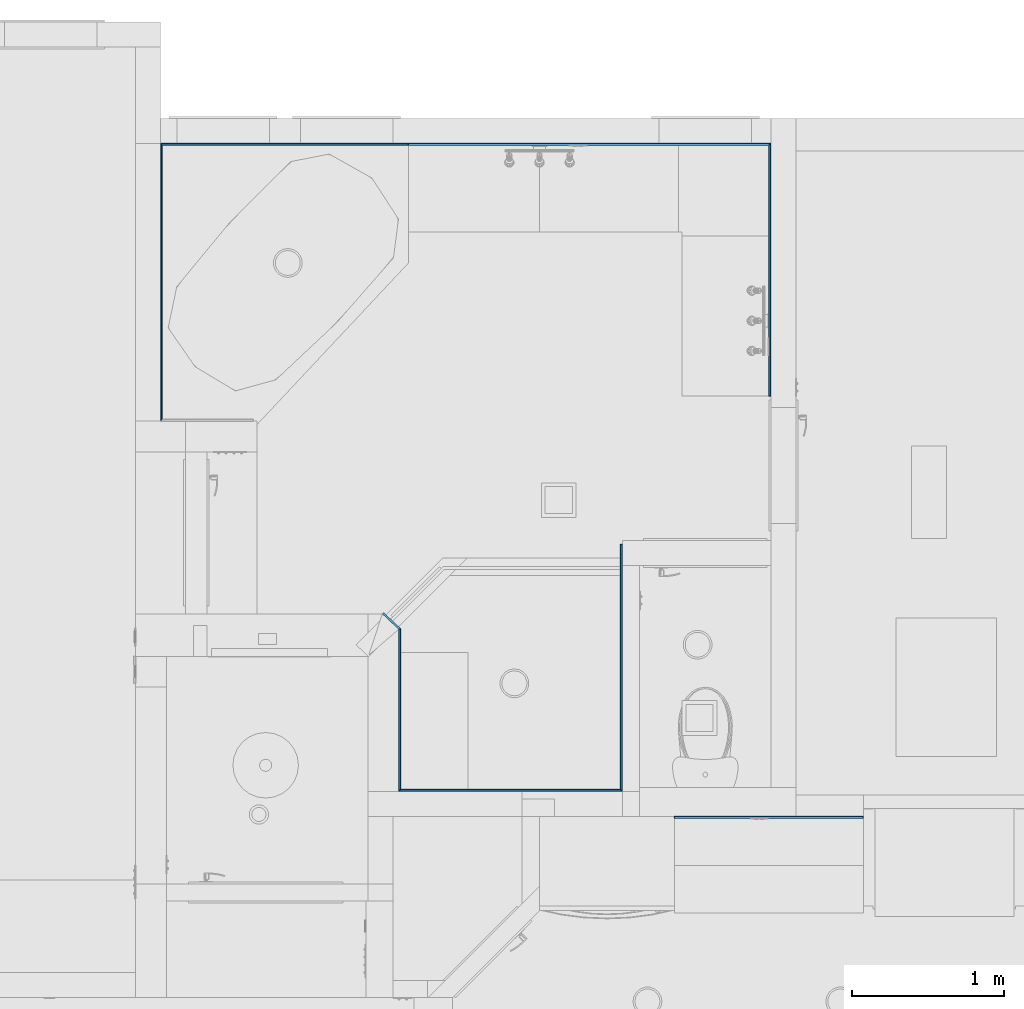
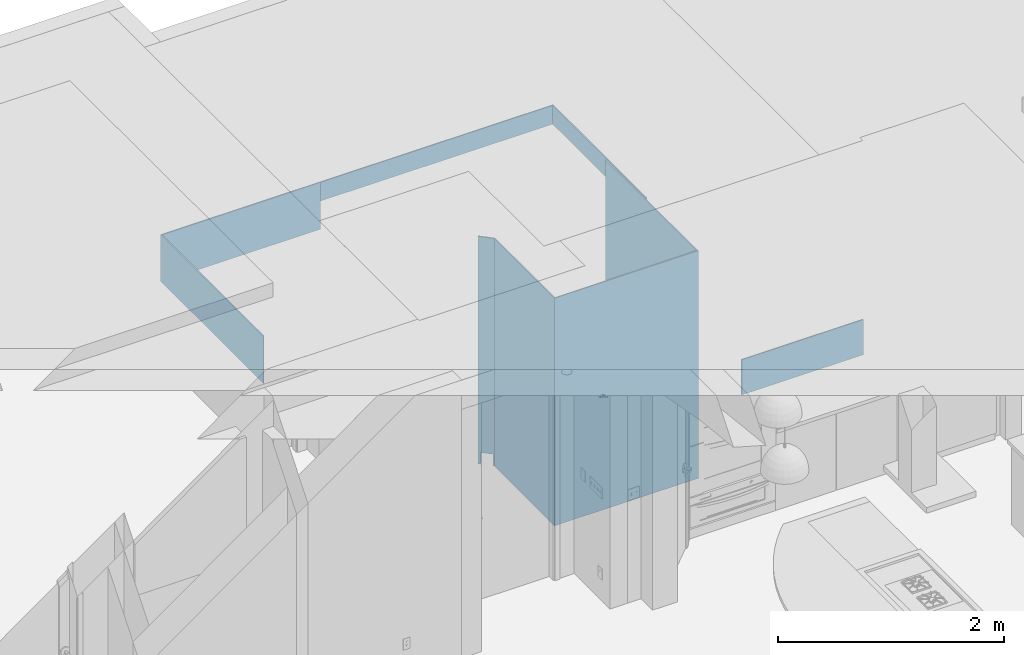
# One storey, part 3 of 103: 9 beams.
"""IFC2X3 building model written with IfcOpenShell, lengths in inches."""

from ifc_helpers import new_model, entity, si_unit, converted_unit, derived_unit, money_unit, direction, frame, origin_with_axes, place, context, subcontext, project, spatial, faceted_brep, material, type_object, element, save


model = new_model("IFC2X3")

# Units and contexts
model_context = context("Model", 3, precision=0.00039370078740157, world=origin_with_axes(), true_north=direction((0.0, 1.0)))
plan_context = context("Plan", 3, precision=0.00039370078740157, world=origin_with_axes(), true_north=direction((0.0, 1.0)))
body_context = subcontext(model_context, "Body", "Model", "MODEL_VIEW")
ifc_project = project(units=[converted_unit("LENGTHUNIT", "INCH", entity("IfcPositiveLengthMeasure", 0.0254), si_unit("LENGTHUNIT", "METRE"), dimensions=[1, 0, 0, 0, 0, 0, 0]), converted_unit("AREAUNIT", "SQUARE_FOOT", entity("IfcPositiveLengthMeasure", 0.09290304), si_unit("AREAUNIT", "SQUARE_METRE"), dimensions=[2, 0, 0, 0, 0, 0, 0]), si_unit("PLANEANGLEUNIT", "RADIAN"), si_unit("SOLIDANGLEUNIT", "STERADIAN"), money_unit("USD"), converted_unit("TIMEUNIT", "Year", entity("IfcTimeMeasure", 31557600.0), si_unit("TIMEUNIT", "SECOND"), dimensions=[0, 0, 1, 0, 0, 0, 0]), si_unit("MASSUNIT", "GRAM", prefix="KILO"), si_unit("THERMODYNAMICTEMPERATUREUNIT", "DEGREE_CELSIUS"), si_unit("LUMINOUSINTENSITYUNIT", "LUMEN"), si_unit("ENERGYUNIT", "JOULE", prefix="MEGA"), derived_unit("SPECIFICHEATCAPACITYUNIT", [(si_unit("ENERGYUNIT", "JOULE"), 1), (si_unit("MASSUNIT", "GRAM", prefix="KILO"), -1), (si_unit("THERMODYNAMICTEMPERATUREUNIT", "KELVIN"), -1)])], contexts=[model_context, plan_context])

# Site, building, storey
site_placement = place(None, origin_with_axes())
site = spatial("IfcSite", under=ifc_project, at=site_placement, Name="Site", CompositionType="ELEMENT")
building_placement = place(site_placement, origin_with_axes())
building = spatial("IfcBuilding", under=site, at=building_placement, Name="Building", CompositionType="ELEMENT")
storey_placement = place(building_placement, frame((0.0, 0.0, 127.9999999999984), z_axis=(0.0, 0.0, 1.0), x_axis=(1.0, 0.0, 0.0)))
storey = spatial("IfcBuildingStorey", under=building, at=storey_placement, Name="Second Floor", CompositionType="ELEMENT", Elevation=128.0)

# Beams
ifc_material = material(Name="Tile - Walls")
beam_type_1 = type_object("IfcBeamType", Name="Tile - Walls 1/2\" x 8\"", PredefinedType="BEAM")
beam_1_placement = place(storey_placement, frame((89.00000616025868, 570.0000000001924, 35.99999999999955), z_axis=(0.0, 0.0, 1.0), x_axis=(1.302219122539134e-05, 0.9999999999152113, 0.0)))
element("IfcBeam", 1, at=beam_1_placement, inside=storey, type_object=beam_type_1, material=ifc_material, Name="BMR - 113", context=body_context, shape_type="Brep", body=[
    faceted_brep([(-0.5000000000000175, 0.4999936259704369, 0.0), (0.0, 6.160258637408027e-06, 0.0), (0.0, 6.160258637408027e-06, 8.000045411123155), (-0.5000000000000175, 0.4999936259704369, 8.000045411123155), (-0.4999999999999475, 94.00002599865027, 0.0), (-0.001224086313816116, 94.00002599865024, 0.0), (-0.001224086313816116, 94.00002599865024, 8.000045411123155), (-0.4999999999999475, 94.00002599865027, 8.000045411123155)], [[[0, 1, 2, 3]], [[4, 5, 1, 0]], [[5, 6, 2, 1]], [[3, 2, 6, 7]], [[0, 3, 7, 4]], [[7, 6, 5, 4]]]),
])
beam_2_placement = place(storey_placement, frame((88.99998820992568, 504.4999999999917, 35.99999999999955), z_axis=(0.0, 0.0, 1.0), x_axis=(0.9999999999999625, -2.740508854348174e-07, 0.0)))
element("IfcBeam", 2, at=beam_2_placement, inside=storey, type_object=beam_type_1, material=ifc_material, Name="BMR - 112", context=body_context, shape_type="Brep", body=[
    faceted_brep([(-0.5, 0.0, 0.0), (-0.5, 65.00000637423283, 0.0), (0.0, 65.50000000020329, 0.0), (0.0, 0.0, 0.0), (-0.5, 0.0, 8.000045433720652), (-0.5, 65.00000637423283, 8.000045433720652), (0.0, 65.50000000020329, 8.000045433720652), (0.0, 0.0, 8.000045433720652)], [[[0, 1, 2, 3]], [[4, 5, 1, 0]], [[2, 1, 5, 6]], [[3, 2, 6, 7]], [[4, 0, 3, 7]], [[7, 6, 5, 4]]]),
])
beam_type_2 = type_object("IfcBeamType", Name="Tile - Walls 1/2\" x 97\"", PredefinedType="BEAM")
beam_3_placement = place(storey_placement, frame((-7.500006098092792, 444.0009003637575, 0.0), z_axis=(0.0, 0.0, 1.0), x_axis=(-0.9999999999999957, -9.406550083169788e-08, 0.0)))
element("IfcBeam", 3, at=beam_3_placement, inside=storey, type_object=beam_type_2, material=ifc_material, Name="BMR - 004", context=body_context, shape_type="Brep", body=[
    faceted_brep([(0.0, 42.00000017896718, 0.0), (0.0, 0.0, 0.0), (-0.4999999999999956, -0.2160700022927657, 0.0), (-0.4999999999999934, 41.50000017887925, 0.0), (0.0, 42.00000017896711, 96.9999999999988), (0.0, 0.0, 96.9999999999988), (-0.4999999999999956, -0.2160700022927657, 96.9999999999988), (-0.4999999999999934, 41.50000017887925, 96.9999999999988)], [[[0, 1, 2, 3]], [[4, 5, 1, 0]], [[1, 5, 6, 2]], [[3, 2, 6, 7]], [[7, 4, 0, 3]], [[7, 6, 5, 4]]]),
])
beam_4_placement = place(storey_placement, frame((50.49999785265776, 402.0009056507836, 0.0), z_axis=(0.0, 0.0, 1.0), x_axis=(0.9999999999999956, 9.406550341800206e-08, 0.0)))
element("IfcBeam", 4, at=beam_4_placement, inside=storey, type_object=beam_type_2, material=ifc_material, Name="BMR - 004", context=body_context, shape_type="Brep", body=[
    faceted_brep([(0.0, 0.0, 96.9999999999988), (0.0, 0.0, 0.0), (7.414925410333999e-06, 55.99909115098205, 0.0), (7.414925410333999e-06, 55.99909115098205, 4.99999999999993), (7.838220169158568e-06, 60.499091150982, 4.99999999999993), (7.838220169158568e-06, 60.499091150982, 0.0), (0.0, 63.9999999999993, 0.0), (0.0, 63.9999999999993, 96.9999999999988), (-0.4999999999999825, 0.4999999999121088, 96.9999999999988), (-0.4999999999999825, 0.4999999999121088, 0.0), (-0.4999999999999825, 55.9990911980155, 0.0), (-0.4999999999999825, 55.9990911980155, 4.99999999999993), (-0.4999999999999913, 60.49909119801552, 4.99999999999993), (-0.4999999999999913, 60.49909119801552, 0.0), (-0.4999999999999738, 63.9999999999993, 0.0), (-0.4999999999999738, 63.9999999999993, 96.9999999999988)], [[[0, 1, 2, 3, 4, 5, 6, 7]], [[1, 0, 8, 9]], [[1, 9, 10, 2]], [[10, 11, 3, 2]], [[11, 12, 4, 3]], [[12, 13, 5, 4]], [[14, 6, 5, 13]], [[15, 7, 6, 14]], [[15, 8, 0, 7]], [[13, 12, 11, 10, 9, 8, 15, 14]]]),
])
beam_5_placement = place(storey_placement, frame((-7.500002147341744, 402.0009001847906, 0.0), z_axis=(0.0, 0.0, 1.0), x_axis=(9.424126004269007e-08, -0.9999999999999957, 0.0)))
element("IfcBeam", 5, at=beam_5_placement, inside=storey, type_object=beam_type_2, material=ifc_material, Name="BMR - 004", context=body_context, shape_type="Brep", body=[
    faceted_brep([(0.0, 57.99999999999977, 0.0), (0.0, 0.0, 0.0), (-0.4999999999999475, 0.5000000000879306, 0.0), (-0.5000000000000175, 57.50000000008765, 0.0), (0.0, 57.99999999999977, 96.9999999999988), (0.0, 0.0, 96.9999999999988), (-0.4999999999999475, 0.5000000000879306, 96.9999999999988), (-0.5000000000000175, 57.50000000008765, 96.9999999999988)], [[[0, 1, 2, 3]], [[4, 5, 1, 0]], [[1, 5, 6, 2]], [[3, 2, 6, 7]], [[7, 4, 0, 3]], [[7, 6, 5, 4]]]),
])
beam_6_placement = place(storey_placement, frame((-11.75000668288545, 447.9999904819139, 0.0), z_axis=(0.0, 0.0, 1.0), x_axis=(-0.6852819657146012, -0.7282778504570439, 0.0)))
element("IfcBeam", 6, at=beam_6_placement, inside=storey, type_object=beam_type_2, material=ifc_material, Name="BMR - 004", context=body_context, shape_type="Brep", body=[
    faceted_brep([(-0.5000000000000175, 5.379325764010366, 0.0), (-0.5000000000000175, 5.37932609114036, 4.99999999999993), (-0.5000000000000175, 0.8772449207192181, 4.99999999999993), (-0.5000000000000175, 0.8772449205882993, 0.0), (-0.5000000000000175, 0.0, 0.0), (-0.5000000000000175, 0.0, 96.9999999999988), (-0.5000000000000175, 6.051755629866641, 96.9999999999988), (-0.5000000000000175, 6.051755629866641, 0.0), (-1.083649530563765e-05, 5.364117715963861, 0.0), (-1.083649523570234e-05, 5.364118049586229, 4.99999999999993), (-1.128300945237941e-05, 0.862036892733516, 4.99999999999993), (-1.128300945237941e-05, 0.862036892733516, 0.0), (-0.1368119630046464, 0.8661979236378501, 0.0), (0.0, 0.0, 0.0), (0.0, 0.0, 96.9999999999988), (0.0, 5.835685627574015, 96.9999999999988), (0.0, 5.835685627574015, 0.0)], [[[0, 1, 2, 3, 4, 5, 6, 7]], [[8, 9, 1, 0]], [[9, 10, 2, 1]], [[11, 12, 3, 2, 10]], [[4, 3, 12, 11, 13]], [[5, 4, 13, 14]], [[14, 15, 6, 5]], [[16, 7, 6, 15]], [[7, 16, 8, 0]], [[11, 10, 9, 8, 16, 15, 14, 13]]]),
])
beam_type_3 = type_object("IfcBeamType", Name="Tile - Walls 1/2\" x 20\"", PredefinedType="BEAM")
beam_7_placement = place(storey_placement, frame((-69.24999999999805, 570.0000000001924, 23.99999999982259), z_axis=(0.0, 0.0, 1.0), x_axis=(-0.999999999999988, 1.552436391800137e-07, 0.0)))
element("IfcBeam", 7, at=beam_7_placement, inside=storey, type_object=beam_type_3, material=ifc_material, Name="BMR - 114", context=body_context, shape_type="Brep", body=[
    faceted_brep([(0.0, 0.0, 0.0), (-0.4999999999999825, 0.4999903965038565, 0.0), (-0.4999999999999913, 71.50001476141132, 0.0), (0.0, 72.00001488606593, 0.0), (0.0, 0.0, 20.00009078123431), (-0.4999999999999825, 0.4999903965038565, 20.00009078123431), (-0.4999999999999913, 71.50001476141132, 20.00009078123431), (0.0, 72.00001488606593, 20.00009078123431)], [[[0, 1, 2, 3]], [[4, 5, 1, 0]], [[1, 5, 6, 2]], [[7, 3, 2, 6]], [[4, 0, 3, 7]], [[5, 4, 7, 6]]]),
])
beam_8_placement = place(storey_placement, frame((-5.000019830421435, 570.0012240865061, 23.99999999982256), z_axis=(0.0, 0.0, 1.0), x_axis=(-1.905193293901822e-05, 0.999999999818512, 0.0)))
element("IfcBeam", 8, at=beam_8_placement, inside=storey, type_object=beam_type_3, material=ifc_material, Name="BMR - 113", context=body_context, shape_type="Brep", body=[
    faceted_brep([(-0.5000000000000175, 0.0, 20.00004538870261), (-0.5000000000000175, 0.0, 0.0), (-0.001224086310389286, 1.907030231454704e-07, 1.771461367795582e-10), (-0.001224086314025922, 0.0, 20.00004538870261), (-0.5000000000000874, 63.74998978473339, 0.0), (-0.5000000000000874, 63.74998978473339, 20.00004538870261), (0.0, 64.24998018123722, 1.771461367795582e-10), (0.0, 64.24998018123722, 20.00004538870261)], [[[0, 1, 2, 3]], [[4, 1, 0, 5]], [[1, 4, 6, 2]], [[2, 6, 7, 3]], [[5, 0, 3, 7]], [[4, 5, 7, 6]]]),
])
beam_type_4 = type_object("IfcBeamType", Name="Tile - Walls 1/2\" x 15\"", PredefinedType="BEAM")
beam_9_placement = place(storey_placement, frame((112.9994904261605, 395.5015372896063, 34.99999999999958), z_axis=(0.0, 0.0, 1.0), x_axis=(-2.019381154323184e-06, 0.9999999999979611, 0.0)))
element("IfcBeam", 9, at=beam_9_placement, inside=storey, type_object=beam_type_4, material=ifc_material, Name="BMR - 041", context=body_context, shape_type="Brep", body=[
    faceted_brep([(-0.4999999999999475, 0.0, 0.0), (-0.0006276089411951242, 0.0, 0.0), (-0.0006275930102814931, 0.0, 14.99999999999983), (-0.4999999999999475, 0.0, 14.99999999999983), (-0.0005290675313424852, 49.00004579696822, 0.0), (-0.4999999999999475, 49.00004579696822, 0.0), (-0.0005290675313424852, 49.00004579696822, 14.99999999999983), (-0.4999999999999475, 49.00004579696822, 14.99999999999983)], [[[0, 1, 2, 3]], [[4, 1, 0, 5]], [[6, 2, 1, 4]], [[3, 2, 6, 7]], [[0, 3, 7, 5]], [[7, 6, 4, 5]]]),
])

save(model, "model.ifc")
